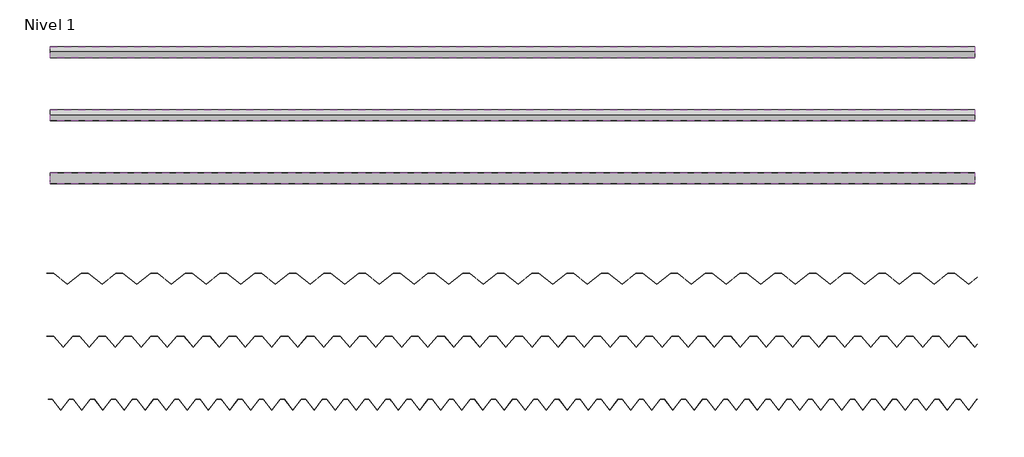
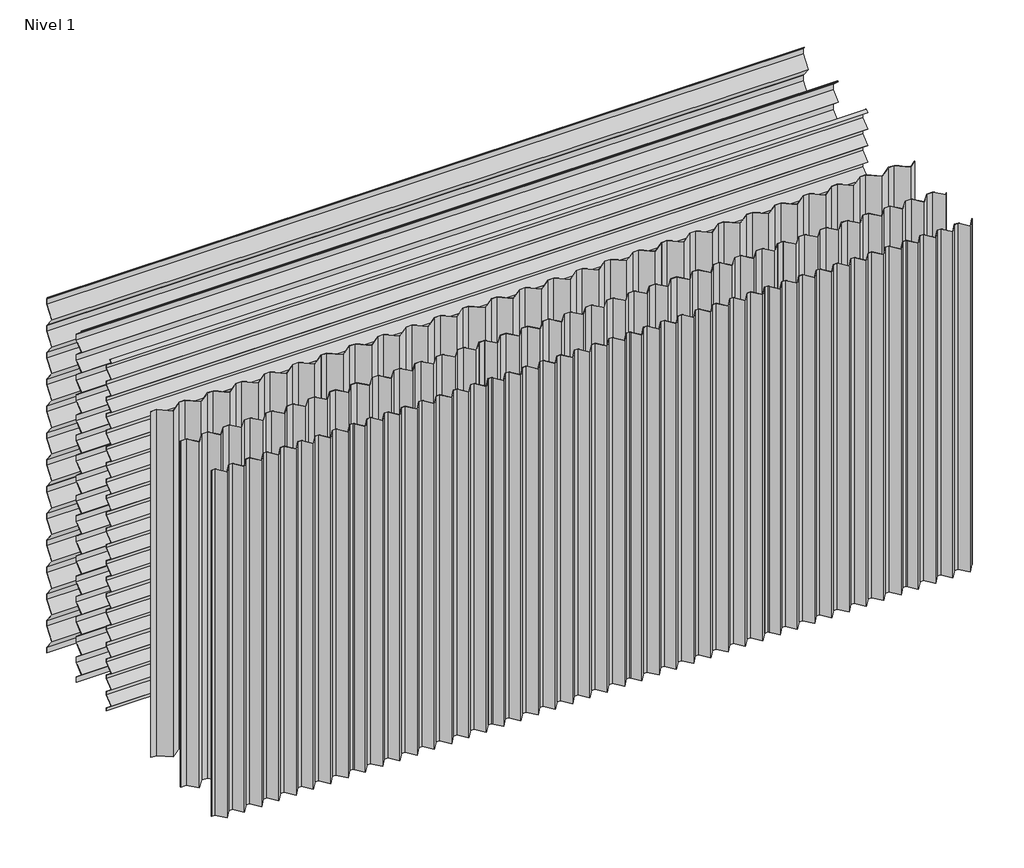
# One storey: 26 plates.
"""IFC4 building model written with IfcOpenShell, lengths in millimetres."""

from ifc_helpers import new_model, si_unit, origin, place, context, project, spatial, transform, mapped, element, save
from components import plate_e49f8d99, plate_46b0d8f6, plate_e768e22a, plate_b4517af3, plate_0a771098, plate_7b84aecb, plate_7a3b76ca, plate_67cbedeb, plate_efeca091, plate_a66779e1, plate_c3072e43, plate_b46e66bf

model = new_model("IFC4")

# Units and contexts
model_context = context("Model", 3, world=origin())
ifc_project = project(units=[si_unit("LENGTHUNIT", "METRE", prefix="MILLI")], contexts=[model_context])

# Site, building, storey
site = spatial("IfcSite", under=ifc_project)
building = spatial("IfcBuilding", under=site)
storey = spatial("IfcBuildingStorey", under=building, Name="Nivel 1", Elevation=0.0)

# Plates
placement = place(None, origin())
plate_shape = plate_e49f8d99(model_context)
element("IfcPlate", 1, ObjectType="HIANSA - H20.F09.008-CHAPA PERFILADA FACHADA HORIZONTAL - MT53MA6 - Panel de Muro Cortina : -", at=placement, inside=storey, context=model_context, shape_type="MappedRepresentation", body=[
    mapped(plate_shape, transform((6468.14367, 19036.5269271, 0.0), x_axis=(1.0, 0.0, 0.0), y_axis=(0.0, 1.0, 0.0), z_axis=(0.0, 0.0, 1.0))),
])
element("IfcPlate", 2, ObjectType="HIANSA - H20.F09.008-CHAPA PERFILADA FACHADA HORIZONTAL - MT53MA6 - Panel de Muro Cortina : -", at=placement, inside=storey, context=model_context, shape_type="MappedRepresentation", body=[
    mapped(plate_shape, transform((6468.14367, 19036.5269271, 990.0), x_axis=(1.0, 0.0, 0.0), y_axis=(0.0, 1.0, 0.0), z_axis=(0.0, 0.0, 1.0))),
])
plate_2_shape = plate_46b0d8f6(model_context)
element("IfcPlate", 3, ObjectType="HIANSA - H20.F09.008-CHAPA PERFILADA FACHADA HORIZONTAL - MT53MA6 - Panel de Muro Cortina : -", at=placement, inside=storey, context=model_context, shape_type="MappedRepresentation", body=[
    mapped(plate_2_shape, transform((6468.14367, 19036.5269271, 1980.0), x_axis=(1.0, 0.0, 0.0), y_axis=(0.0, 1.0, 0.0), z_axis=(0.0, 0.0, 1.0))),
])
plate_3_shape = plate_e768e22a(model_context)
element("IfcPlate", 4, ObjectType="HIANSA - H20.F09.008-CHAPA PERFILADA FACHADA VERTICAL - MT53MA6 - Panel de Muro Cortina : -", at=placement, inside=storey, context=model_context, shape_type="MappedRepresentation", body=[
    mapped(plate_3_shape, transform((4763.1436702, 17958.0269271, 0.0), x_axis=(1.0, 0.0, 0.0), y_axis=(0.0, 1.0, 0.0), z_axis=(0.0, 0.0, 1.0))),
])
element("IfcPlate", 5, ObjectType="HIANSA - H20.F09.008-CHAPA PERFILADA FACHADA VERTICAL - MT53MA6 - Panel de Muro Cortina : -", at=placement, inside=storey, context=model_context, shape_type="MappedRepresentation", body=[
    mapped(plate_3_shape, transform((6743.1436703, 17958.0269271, 0.0), x_axis=(1.0, 0.0, 0.0), y_axis=(0.0, 1.0, 0.0), z_axis=(0.0, 0.0, 1.0))),
])
element("IfcPlate", 6, ObjectType="HIANSA - H20.F09.008-CHAPA PERFILADA FACHADA VERTICAL - MT53MA6 - Panel de Muro Cortina : -", at=placement, inside=storey, context=model_context, shape_type="MappedRepresentation", body=[
    mapped(plate_3_shape, transform((7733.1436703, 17958.0269271, 0.0), x_axis=(1.0, 0.0, 0.0), y_axis=(0.0, 1.0, 0.0), z_axis=(0.0, 0.0, 1.0))),
])
element("IfcPlate", 7, ObjectType="HIANSA - H20.F09.008-CHAPA PERFILADA FACHADA VERTICAL - MT53MA6 - Panel de Muro Cortina : -", at=placement, inside=storey, context=model_context, shape_type="MappedRepresentation", body=[
    mapped(plate_3_shape, transform((5753.1436703, 17958.0269271, 0.0), x_axis=(1.0, 0.0, 0.0), y_axis=(0.0, 1.0, 0.0), z_axis=(0.0, 0.0, 1.0))),
])
plate_4_shape = plate_b4517af3(model_context)
element("IfcPlate", 8, ObjectType="HIANSA - H20.F09.008-CHAPA PERFILADA FACHADA VERTICAL - MT53MA6 - Panel de Muro Cortina : -", at=placement, inside=storey, context=model_context, shape_type="MappedRepresentation", body=[
    mapped(plate_4_shape, transform((8448.1436702, 17958.0269271, 0.0), x_axis=(1.0, 0.0, 0.0), y_axis=(0.0, 1.0, 0.0), z_axis=(0.0, 0.0, 1.0))),
])
plate_5_shape = plate_0a771098(model_context)
element("IfcPlate", 9, ObjectType="HIANSA - H20.F09.008-CHAPA PERFILADA FACHADA HORIZONTAL - MT53MA7 - Panel de Muro Cortina : -", at=placement, inside=storey, context=model_context, shape_type="MappedRepresentation", body=[
    mapped(plate_5_shape, transform((6468.14367, 18736.5269271, 0.0), x_axis=(1.0, 0.0, 0.0), y_axis=(0.0, 1.0, 0.0), z_axis=(0.0, 0.0, 1.0))),
])
element("IfcPlate", 10, ObjectType="HIANSA - H20.F09.008-CHAPA PERFILADA FACHADA HORIZONTAL - MT53MA7 - Panel de Muro Cortina : -", at=placement, inside=storey, context=model_context, shape_type="MappedRepresentation", body=[
    mapped(plate_5_shape, transform((6468.14367, 18736.5269271, 868.0), x_axis=(1.0, 0.0, 0.0), y_axis=(0.0, 1.0, 0.0), z_axis=(0.0, 0.0, 1.0))),
])
plate_6_shape = plate_7b84aecb(model_context)
element("IfcPlate", 11, ObjectType="HIANSA - H20.F09.008-CHAPA PERFILADA FACHADA HORIZONTAL - MT53MA7 - Panel de Muro Cortina : -", at=placement, inside=storey, context=model_context, shape_type="MappedRepresentation", body=[
    mapped(plate_6_shape, transform((6468.14367, 18736.5269271, 1736.0), x_axis=(1.0, 0.0, 0.0), y_axis=(0.0, 1.0, 0.0), z_axis=(0.0, 0.0, 1.0))),
])
plate_7_shape = plate_7a3b76ca(model_context)
element("IfcPlate", 12, ObjectType="HIANSA - H20.F09.008-CHAPA PERFILADA FACHADA VERTICAL - MT53MA7 - Panel de Muro Cortina : -", at=placement, inside=storey, context=model_context, shape_type="MappedRepresentation", body=[
    mapped(plate_7_shape, transform((4702.1436702, 17658.0269271, 0.0), x_axis=(1.0, 0.0, 0.0), y_axis=(0.0, 1.0, 0.0), z_axis=(0.0, 0.0, 1.0))),
])
element("IfcPlate", 13, ObjectType="HIANSA - H20.F09.008-CHAPA PERFILADA FACHADA VERTICAL - MT53MA7 - Panel de Muro Cortina : -", at=placement, inside=storey, context=model_context, shape_type="MappedRepresentation", body=[
    mapped(plate_7_shape, transform((7306.1436703, 17658.0269271, 0.0), x_axis=(1.0, 0.0, 0.0), y_axis=(0.0, 1.0, 0.0), z_axis=(0.0, 0.0, 1.0))),
])
element("IfcPlate", 14, ObjectType="HIANSA - H20.F09.008-CHAPA PERFILADA FACHADA VERTICAL - MT53MA7 - Panel de Muro Cortina : -", at=placement, inside=storey, context=model_context, shape_type="MappedRepresentation", body=[
    mapped(plate_7_shape, transform((8174.1436703, 17658.0269271, 0.0), x_axis=(1.0, 0.0, 0.0), y_axis=(0.0, 1.0, 0.0), z_axis=(0.0, 0.0, 1.0))),
])
element("IfcPlate", 15, ObjectType="HIANSA - H20.F09.008-CHAPA PERFILADA FACHADA VERTICAL - MT53MA7 - Panel de Muro Cortina : -", at=placement, inside=storey, context=model_context, shape_type="MappedRepresentation", body=[
    mapped(plate_7_shape, transform((6438.1436703, 17658.0269271, 0.0), x_axis=(1.0, 0.0, 0.0), y_axis=(0.0, 1.0, 0.0), z_axis=(0.0, 0.0, 1.0))),
])
element("IfcPlate", 16, ObjectType="HIANSA - H20.F09.008-CHAPA PERFILADA FACHADA VERTICAL - MT53MA7 - Panel de Muro Cortina : -", at=placement, inside=storey, context=model_context, shape_type="MappedRepresentation", body=[
    mapped(plate_7_shape, transform((5570.1436703, 17658.0269271, 0.0), x_axis=(1.0, 0.0, 0.0), y_axis=(0.0, 1.0, 0.0), z_axis=(0.0, 0.0, 1.0))),
])
plate_8_shape = plate_67cbedeb(model_context)
element("IfcPlate", 17, ObjectType="HIANSA - H20.F09.008-CHAPA PERFILADA FACHADA VERTICAL - MT53MA7 - Panel de Muro Cortina : -", at=placement, inside=storey, context=model_context, shape_type="MappedRepresentation", body=[
    mapped(plate_8_shape, transform((8638.1436702, 17658.0269271, 0.0), x_axis=(1.0, 0.0, 0.0), y_axis=(0.0, 1.0, 0.0), z_axis=(0.0, 0.0, 1.0))),
])
plate_9_shape = plate_efeca091(model_context)
element("IfcPlate", 18, ObjectType="HIANSA - H20.F09.008-CHAPA PERFILADA FACHADA HORIZONTAL - MT53MA8 - Panel de Muro Cortina : -", at=placement, inside=storey, context=model_context, shape_type="MappedRepresentation", body=[
    mapped(plate_9_shape, transform((6468.14367, 18436.5269271, 0.0), x_axis=(1.0, 0.0, 0.0), y_axis=(0.0, 1.0, 0.0), z_axis=(0.0, 0.0, 1.0))),
])
element("IfcPlate", 19, ObjectType="HIANSA - H20.F09.008-CHAPA PERFILADA FACHADA HORIZONTAL - MT53MA8 - Panel de Muro Cortina : -", at=placement, inside=storey, context=model_context, shape_type="MappedRepresentation", body=[
    mapped(plate_9_shape, transform((6468.14367, 18436.5269271, 804.0), x_axis=(1.0, 0.0, 0.0), y_axis=(0.0, 1.0, 0.0), z_axis=(0.0, 0.0, 1.0))),
])
plate_10_shape = plate_a66779e1(model_context)
element("IfcPlate", 20, ObjectType="HIANSA - H20.F09.008-CHAPA PERFILADA FACHADA HORIZONTAL - MT53MA8 - Panel de Muro Cortina : -", at=placement, inside=storey, context=model_context, shape_type="MappedRepresentation", body=[
    mapped(plate_10_shape, transform((6468.14367, 18436.5269271, 1608.0), x_axis=(1.0, 0.0, 0.0), y_axis=(0.0, 1.0, 0.0), z_axis=(0.0, 0.0, 1.0))),
])
plate_11_shape = plate_c3072e43(model_context)
element("IfcPlate", 21, ObjectType="HIANSA - H20.F09.008-CHAPA PERFILADA FACHADA VERTICAL - MT53MA8 - Panel de Muro Cortina : -", at=placement, inside=storey, context=model_context, shape_type="MappedRepresentation", body=[
    mapped(plate_11_shape, transform((4670.1436702, 17358.0269271, 0.0), x_axis=(1.0, 0.0, 0.0), y_axis=(0.0, 1.0, 0.0), z_axis=(0.0, 0.0, 1.0))),
])
element("IfcPlate", 22, ObjectType="HIANSA - H20.F09.008-CHAPA PERFILADA FACHADA VERTICAL - MT53MA8 - Panel de Muro Cortina : -", at=placement, inside=storey, context=model_context, shape_type="MappedRepresentation", body=[
    mapped(plate_11_shape, transform((7082.1436703, 17358.0269271, 0.0), x_axis=(1.0, 0.0, 0.0), y_axis=(0.0, 1.0, 0.0), z_axis=(0.0, 0.0, 1.0))),
])
element("IfcPlate", 23, ObjectType="HIANSA - H20.F09.008-CHAPA PERFILADA FACHADA VERTICAL - MT53MA8 - Panel de Muro Cortina : -", at=placement, inside=storey, context=model_context, shape_type="MappedRepresentation", body=[
    mapped(plate_11_shape, transform((7886.1436703, 17358.0269271, 0.0), x_axis=(1.0, 0.0, 0.0), y_axis=(0.0, 1.0, 0.0), z_axis=(0.0, 0.0, 1.0))),
])
element("IfcPlate", 24, ObjectType="HIANSA - H20.F09.008-CHAPA PERFILADA FACHADA VERTICAL - MT53MA8 - Panel de Muro Cortina : -", at=placement, inside=storey, context=model_context, shape_type="MappedRepresentation", body=[
    mapped(plate_11_shape, transform((6278.1436703, 17358.0269271, 0.0), x_axis=(1.0, 0.0, 0.0), y_axis=(0.0, 1.0, 0.0), z_axis=(0.0, 0.0, 1.0))),
])
element("IfcPlate", 25, ObjectType="HIANSA - H20.F09.008-CHAPA PERFILADA FACHADA VERTICAL - MT53MA8 - Panel de Muro Cortina : -", at=placement, inside=storey, context=model_context, shape_type="MappedRepresentation", body=[
    mapped(plate_11_shape, transform((5474.1436703, 17358.0269271, 0.0), x_axis=(1.0, 0.0, 0.0), y_axis=(0.0, 1.0, 0.0), z_axis=(0.0, 0.0, 1.0))),
])
plate_12_shape = plate_b46e66bf(model_context)
element("IfcPlate", 26, ObjectType="HIANSA - H20.F09.008-CHAPA PERFILADA FACHADA VERTICAL - MT53MA8 - Panel de Muro Cortina : -", at=placement, inside=storey, context=model_context, shape_type="MappedRepresentation", body=[
    mapped(plate_12_shape, transform((8478.1436702, 17358.0269271, 0.0), x_axis=(1.0, 0.0, 0.0), y_axis=(0.0, 1.0, 0.0), z_axis=(0.0, 0.0, 1.0))),
])

save(model, "model.ifc")
